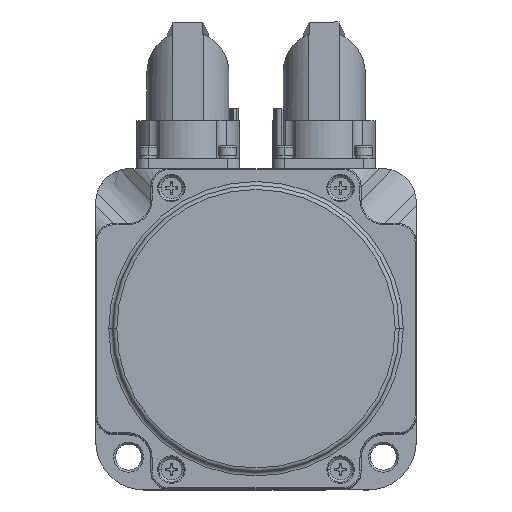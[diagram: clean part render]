
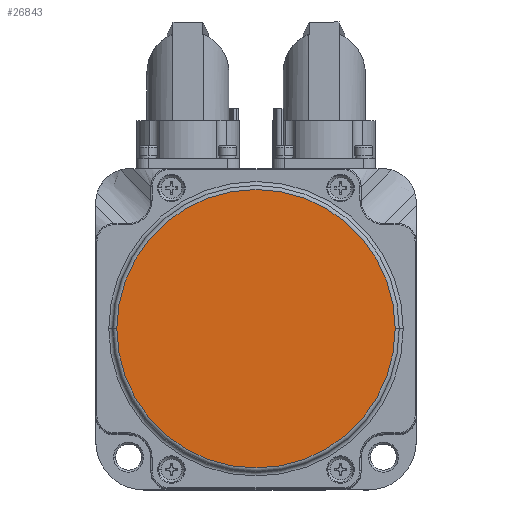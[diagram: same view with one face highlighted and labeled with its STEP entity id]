
A CAD part, top view. The second image highlights one B-rep face of the part: STEP entity #26843.
In plain terms, the highlighted planar face has unit normal (0, 0, 1).
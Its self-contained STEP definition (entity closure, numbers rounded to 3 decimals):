
#9445 = CARTESIAN_POINT ( 'NONE',  ( -34.75, 0., 6.5 ) ) ;
#9452 = CARTESIAN_POINT ( 'NONE',  ( 34.75, 0., 6.5 ) ) ;
#12966 = VERTEX_POINT ( 'NONE', #9445 ) ;
#12977 = VERTEX_POINT ( 'NONE', #9452 ) ;
#21756 = EDGE_LOOP ( 'NONE', ( #28001, #28002 ) ) ;
#26770 = EDGE_CURVE ( 'NONE', #12977, #12966, #58085, .T. ) ;
#26843 = ADVANCED_FACE ( 'NONE', ( #57249 ), #60451, .T. ) ;
#27211 = EDGE_CURVE ( 'NONE', #12966, #12977, #58530, .T. ) ;
#28001 = ORIENTED_EDGE ( 'NONE', *, *, #26770, .T. ) ;
#28002 = ORIENTED_EDGE ( 'NONE', *, *, #27211, .T. ) ;
#57249 = FACE_OUTER_BOUND ( 'NONE', #21756, .T. ) ;
#58085 = CIRCLE ( 'NONE', #58086, 34.75 ) ;
#58086 = AXIS2_PLACEMENT_3D ( 'NONE', #60220, #60221, #60222 ) ;
#58171 = AXIS2_PLACEMENT_3D ( 'NONE', #60452, #60453, #60454 ) ;
#58530 = CIRCLE ( 'NONE', #58542, 34.75 ) ;
#58542 = AXIS2_PLACEMENT_3D ( 'NONE', #62955, #62956, #62957 ) ;
#60220 = CARTESIAN_POINT ( 'NONE',  ( 0., 0., 6.5 ) ) ;
#60221 = DIRECTION ( 'NONE',  ( 0., 0., 1. ) ) ;
#60222 = DIRECTION ( 'NONE',  ( 1., 0., 0. ) ) ;
#60451 = PLANE ( 'NONE',  #58171 ) ;
#60452 = CARTESIAN_POINT ( 'NONE',  ( 0., 0., 6.5 ) ) ;
#60453 = DIRECTION ( 'NONE',  ( 0., 0., 1. ) ) ;
#60454 = DIRECTION ( 'NONE',  ( 1., 0., 0. ) ) ;
#62955 = CARTESIAN_POINT ( 'NONE',  ( 0., 0., 6.5 ) ) ;
#62956 = DIRECTION ( 'NONE',  ( 0., 0., 1. ) ) ;
#62957 = DIRECTION ( 'NONE',  ( 1., 0., 0. ) ) ;
